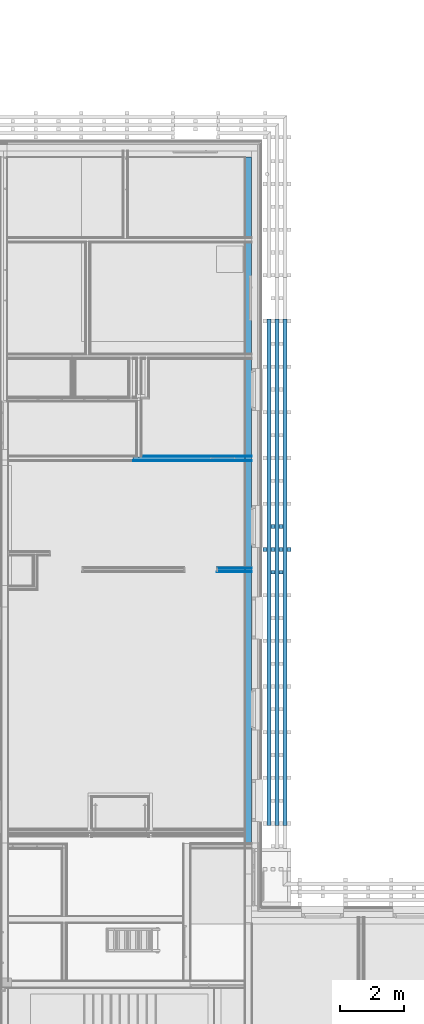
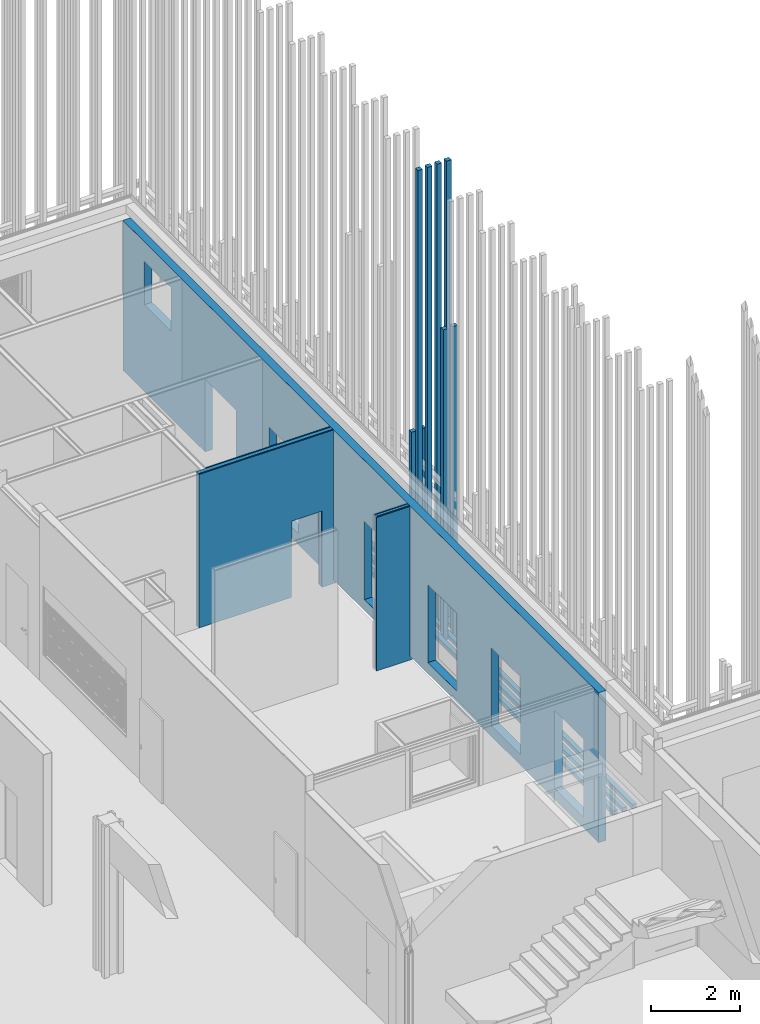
# One storey, part 190 of 260: 14 building element parts, 4 discrete accessories, 9 openings, 3 elements without a shape of their own.
"""IFC2X3 building model written with IfcOpenShell, lengths in millimetres."""

from ifc_helpers import new_model, entity, si_unit, converted_unit, derived_unit, money_unit, direction, frame, origin_with_axes, place, context, subcontext, project, spatial, faceted_brep, material, material_list, type_object, element, aggregate, save


model = new_model("IFC2X3")

# Units and contexts
model_context = context("Model", 3, precision=0.01, world=origin_with_axes(), true_north=direction((0.0, 1.0)))
body_context = subcontext(model_context, "Body", "Model", "MODEL_VIEW")
ifc_project = project(units=[si_unit("LENGTHUNIT", "METRE", prefix="MILLI"), si_unit("AREAUNIT", "SQUARE_METRE"), si_unit("VOLUMEUNIT", "CUBIC_METRE"), converted_unit("PLANEANGLEUNIT", "DEGREE", entity("IfcPlaneAngleMeasure", 0.0174532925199), si_unit("PLANEANGLEUNIT", "RADIAN"), dimensions=[0, 0, 0, 0, 0, 0, 0]), money_unit("EUR"), converted_unit("TIMEUNIT", "Year", entity("IfcTimeMeasure", 31556926.0), si_unit("TIMEUNIT", "SECOND"), dimensions=[0, 0, 1, 0, 0, 0, 0]), si_unit("MASSUNIT", "GRAM", prefix="KILO"), si_unit("THERMODYNAMICTEMPERATUREUNIT", "DEGREE_CELSIUS"), si_unit("LUMINOUSINTENSITYUNIT", "LUMEN"), si_unit("ENERGYUNIT", "JOULE", prefix="MEGA"), derived_unit("THERMALCONDUCTANCEUNIT", [(si_unit("POWERUNIT", "WATT"), 1), (si_unit("LENGTHUNIT", "METRE"), -1), (si_unit("THERMODYNAMICTEMPERATUREUNIT", "KELVIN"), -1)]), derived_unit("SPECIFICHEATCAPACITYUNIT", [(si_unit("ENERGYUNIT", "JOULE"), 1), (si_unit("MASSUNIT", "GRAM", prefix="KILO"), -1), (si_unit("THERMODYNAMICTEMPERATUREUNIT", "KELVIN"), -1)]), derived_unit("MASSDENSITYUNIT", [(si_unit("MASSUNIT", "GRAM", prefix="KILO"), 1), (si_unit("VOLUMEUNIT", "CUBIC_METRE"), -1)])], contexts=[model_context])

# Site, building, storey
site_placement = place(None, origin_with_axes())
site = spatial("IfcSite", under=ifc_project, at=site_placement, Name="Kolde pst 67a", CompositionType="ELEMENT")
building_placement = place(site_placement, origin_with_axes())
building = spatial("IfcBuilding", under=site, at=building_placement, Name="Riigigümnaasium", CompositionType="ELEMENT")
storey_placement = place(building_placement, origin_with_axes())
storey = spatial("IfcBuildingStorey", under=building, at=storey_placement, Name="1. korrus", CompositionType="ELEMENT", Elevation=0.0)

# Discrete accessories
ifc_material_1 = material(Name="_VÄLISVIIMISTLUS - sõrmjätkatud puitprussid 120x115mm, liitekohad vähemärgatavad, Platowood sõrmjätkatud kuusk või samaväärne; eeltöödeldud tuletõkkevõõbaga, tuletundlikkus B-s1, d0, Woodsafe Exterior WFX™ või samaväärne; kinnitused vastavalt EK osale")
ifc_material_list_1 = material_list([ifc_material_1, ifc_material_1, ifc_material_1, ifc_material_1])
discrete_accessory_type_1 = type_object("IfcDiscreteAccessoryType", Name="120 4-ne vertikaalne 870 x 115")
discrete_accessory_1_placement = place(storey_placement, frame((60791.9943499, 47947.4998416, 280.0), z_axis=(0.0, 0.0, 1.0), x_axis=(-0.999999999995, -3.13999128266e-06, 0.0)))
element("IfcDiscreteAccessory", 1, at=discrete_accessory_1_placement, inside=storey, type_object=discrete_accessory_type_1, material=ifc_material_list_1, Name="Päikesevarjestus", context=body_context, shape_type="Brep", body=[
    faceted_brep([(-133.0, -70.0, 0.0), (-13.0, -70.0, 0.0), (-13.0, -70.0, 12600.0), (-133.0, -70.0, 12600.0), (-133.0, 45.0, 0.0), (-13.0, 45.0, 0.0), (-13.0, 45.0, 12600.0), (-133.0, 45.0, 12600.0)], [[[0, 1, 2, 3]], [[0, 4, 5, 1]], [[1, 5, 6, 2]], [[3, 2, 6, 7]], [[4, 0, 3, 7]], [[5, 4, 7, 6]]]),
    faceted_brep([(-383.0, -70.0, 0.0), (-263.0, -70.0, 0.0), (-263.0, -70.0, 12600.0), (-383.0, -70.0, 12600.0), (-383.0, 45.0, 0.0), (-263.0, 45.0, 0.0), (-263.0, 45.0, 12600.0), (-383.0, 45.0, 12600.0)], [[[0, 1, 2, 3]], [[0, 4, 5, 1]], [[1, 5, 6, 2]], [[3, 2, 6, 7]], [[4, 0, 3, 7]], [[5, 4, 7, 6]]]),
    faceted_brep([(-633.0, -70.0, 0.0), (-513.0, -70.0, 0.0), (-513.0, -70.0, 12600.0), (-633.0, -70.0, 12600.0), (-633.0, 45.0, 0.0), (-513.0, 45.0, 0.0), (-513.0, 45.0, 12600.0), (-633.0, 45.0, 12600.0)], [[[0, 1, 2, 3]], [[0, 4, 5, 1]], [[1, 5, 6, 2]], [[3, 2, 6, 7]], [[4, 0, 3, 7]], [[5, 4, 7, 6]]]),
    faceted_brep([(-883.0, -70.0, 0.0), (-763.0, -70.0, 0.0), (-763.0, -70.0, 12600.0), (-883.0, -70.0, 12600.0), (-883.0, 45.0, 0.0), (-763.0, 45.0, 0.0), (-763.0, 45.0, 12600.0), (-883.0, 45.0, 12600.0)], [[[0, 1, 2, 3]], [[0, 4, 5, 1]], [[1, 5, 6, 2]], [[3, 2, 6, 7]], [[4, 0, 3, 7]], [[5, 4, 7, 6]]]),
])
ifc_material_list_2 = material_list([ifc_material_1, ifc_material_1, ifc_material_1])
discrete_accessory_type_2 = type_object("IfcDiscreteAccessoryType", Name="120 1+paiksekaitse 3 tk  620 x 115")
discrete_accessory_2_placement = place(storey_placement, frame((60804.9941222, 39319.9998825, 352.5), z_axis=(0.0, 0.0, 1.0), x_axis=(1.0, 2.37728049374e-08, 0.0)))
element("IfcDiscreteAccessory", 2, at=discrete_accessory_2_placement, inside=storey, type_object=discrete_accessory_type_2, material=ifc_material_list_2, Name="Päikesevarjestus", context=body_context, shape_type="Brep", body=[
    faceted_brep([(625.0, 15850.0, 45.0), (625.0, 0.0, 45.0), (745.0, 0.0, 45.0), (745.0, 15850.0, 45.0), (625.0, 15850.0, -70.0), (625.0, 0.0, -70.0), (745.0, 0.0, -70.0), (745.0, 15850.0, -70.0)], [[[0, 1, 2, 3]], [[4, 5, 1, 0]], [[5, 6, 2, 1]], [[3, 2, 6, 7]], [[4, 0, 3, 7]], [[7, 6, 5, 4]]]),
    faceted_brep([(375.0, 15850.0, 45.0), (375.0, 0.0, 45.0), (495.0, 0.0, 45.0), (495.0, 15850.0, 45.0), (375.0, 15850.0, -70.0), (375.0, 0.0, -70.0), (495.0, 0.0, -70.0), (495.0, 15850.0, -70.0)], [[[0, 1, 2, 3]], [[4, 5, 1, 0]], [[5, 6, 2, 1]], [[3, 2, 6, 7]], [[4, 0, 3, 7]], [[7, 6, 5, 4]]]),
    faceted_brep([(125.0, 15850.0, 45.0), (125.0, 0.0, 45.0), (245.0, 0.0, 45.0), (245.0, 15850.0, 45.0), (125.0, 15850.0, -70.0), (125.0, 0.0, -70.0), (245.0, 0.0, -70.0), (245.0, 15850.0, -70.0)], [[[0, 1, 2, 3]], [[4, 5, 1, 0]], [[5, 6, 2, 1]], [[3, 2, 6, 7]], [[4, 0, 3, 7]], [[7, 6, 5, 4]]]),
])
ifc_material_list_3 = material_list([ifc_material_1, ifc_material_1])
discrete_accessory_type_3 = type_object("IfcDiscreteAccessoryType", Name="1+paiksekaitse 3 370 x 115")
discrete_accessory_3_placement = place(storey_placement, frame((61771.9937454, 47305.0013897, 280.0), z_axis=(0.0, 0.0, 1.0), x_axis=(-1.0, 0.0, 0.0)))
element("IfcDiscreteAccessory", 3, at=discrete_accessory_3_placement, inside=storey, type_object=discrete_accessory_type_3, material=ifc_material_list_3, Name="Päikesevarjestus", context=body_context, shape_type="Brep", body=[
    faceted_brep([(467.0, 117.5, 0.0), (347.0, 117.5, 0.0), (347.0, 117.5, 8560.0), (467.0, 117.5, 8560.0), (467.0, 2.5, 0.0), (347.0, 2.5, 0.0), (347.0, 2.5, 8560.0), (467.0, 2.5, 8560.0)], [[[0, 1, 2, 3]], [[0, 4, 5, 1]], [[1, 5, 6, 2]], [[3, 2, 6, 7]], [[4, 0, 3, 7]], [[5, 4, 7, 6]]]),
    faceted_brep([(717.0, 117.5, 0.0), (597.0, 117.5, 0.0), (597.0, 117.5, 8560.0), (717.0, 117.5, 8560.0), (717.0, 2.5, 0.0), (597.0, 2.5, 0.0), (597.0, 2.5, 8560.0), (717.0, 2.5, 8560.0)], [[[0, 1, 2, 3]], [[0, 4, 5, 1]], [[1, 5, 6, 2]], [[3, 2, 6, 7]], [[4, 0, 3, 7]], [[5, 4, 7, 6]]]),
])
discrete_accessory_4_placement = place(storey_placement, frame((61771.9937454, 48735.0013897, 2100.00014213), z_axis=(0.0, 0.0, 1.0), x_axis=(-1.0, 0.0, 0.0)))
element("IfcDiscreteAccessory", 4, at=discrete_accessory_4_placement, inside=storey, type_object=discrete_accessory_type_3, material=ifc_material_list_3, Name="Päikesevarjestus", context=body_context, shape_type="Brep", body=[
    faceted_brep([(467.0, 117.5, 0.0), (347.0, 117.5, 0.0), (347.0, 117.5, 3050.0), (467.0, 117.5, 3050.0), (467.0, 2.5, 0.0), (347.0, 2.5, 0.0), (347.0, 2.5, 3050.0), (467.0, 2.5, 3050.0)], [[[0, 1, 2, 3]], [[0, 4, 5, 1]], [[1, 5, 6, 2]], [[3, 2, 6, 7]], [[4, 0, 3, 7]], [[5, 4, 7, 6]]]),
    faceted_brep([(717.0, 117.5, 0.0), (597.0, 117.5, 0.0), (597.0, 117.5, 3050.0), (717.0, 117.5, 3050.0), (717.0, 2.5, 0.0), (597.0, 2.5, 0.0), (597.0, 2.5, 3050.0), (717.0, 2.5, 3050.0)], [[[0, 1, 2, 3]], [[0, 4, 5, 1]], [[1, 5, 6, 2]], [[3, 2, 6, 7]], [[4, 0, 3, 7]], [[5, 4, 7, 6]]]),
])

# Wall, opening, building element parts
wall_type_1 = type_object("IfcWallType", Name="SS-PK-10/9_vill100+2värv 170", PredefinedType="NOTDEFINED")
wall_1_placement = place(storey_placement, frame((56829.994111, 50890.0003787, 0.0), z_axis=(0.0, 0.0, 1.0), x_axis=(1.0, 0.0, 0.0)))
wall_1 = element("IfcWall", 5, at=wall_1_placement, inside=storey, type_object=wall_type_1, Name="Sisesein")
opening_1_placement = place(wall_1_placement, frame((2710.0000112, 0.0, 0.0), z_axis=(0.0, 0.0, 1.0), x_axis=(1.0, 0.0, 0.0)))
element("IfcOpeningElement", 6, at=opening_1_placement, cuts=wall_1, Name="Siseuks", context=body_context, shape_type="Brep", body=[
    faceted_brep([(400.0, -340.0, 2100.0), (400.0, -340.0, 0.0), (400.0, -20.0, 0.0), (400.0, -20.0, 2100.0), (-400.0, -340.0, 2100.0), (-400.0, -340.0, 0.0), (-400.0, -20.0, 0.0), (-400.0, -20.0, 2100.0)], [[[0, 1, 2, 3]], [[0, 4, 5, 1]], [[1, 5, 6, 2]], [[3, 2, 6, 7]], [[4, 0, 3, 7]], [[5, 4, 7, 6]]]),
    faceted_brep([(400.0, 170.0, 0.0), (400.0, 170.0, 2100.0), (400.0, -20.0, 2100.0), (400.0, -20.0, 0.0), (-400.0, 170.0, 0.0), (-400.0, 170.0, 2100.0), (-400.0, -20.0, 2100.0), (-400.0, -20.0, 0.0)], [[[0, 1, 2, 3]], [[0, 4, 5, 1]], [[1, 5, 6, 2]], [[3, 2, 6, 7]], [[4, 0, 3, 7]], [[5, 4, 7, 6]]]),
])
ifc_material_2 = material(Name="_VIIMISTLUSKIHT - viimistlus vastavalt SA osale")
building_element_part_1_placement = place(wall_1_placement, origin_with_axes())
building_element_part_1 = element("IfcBuildingElementPart", 7, at=building_element_part_1_placement, material=ifc_material_2, Name="_VIIMISTLUSKIHT - viimistlus vastavalt SA osale", context=body_context, shape_type="Brep", body=[
    faceted_brep([(2310.0000112, 0.0, 2100.0), (2310.0000112, 0.0, 0.0), (170.0, 0.0, 0.0), (170.0, 0.0, 4230.00000998), (3400.0000112, 0.0, 4230.0), (3400.0000112, 0.0, 100.0), (3610.0000112, 0.0, 100.0), (3610.0000112, 0.0, 0.0), (3110.0000112, 0.0, 0.0), (3110.0000112, 0.0, 2100.0), (2310.0000112, -4.99999940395, 2100.0), (2310.0000112, -4.99999961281, 0.0), (170.0, -4.99999995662, 0.0), (170.0, -5.0, 4230.00000998), (3400.0000112, -5.0, 4230.0), (3400.0000112, -4.99999940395, 100.0), (3610.0000112, -4.99999940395, 100.0), (3610.0000112, -4.99999940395, 0.0), (3110.0000112, -4.99999948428, 0.0), (3110.0000112, -4.99999940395, 2100.0)], [[[0, 1, 2, 3, 4, 5, 6, 7, 8, 9]], [[1, 0, 10, 11]], [[1, 11, 12, 2]], [[3, 2, 12, 13]], [[4, 3, 13, 14]], [[4, 14, 15, 5]], [[5, 15, 16, 6]], [[16, 17, 7, 6]], [[18, 8, 7, 17]], [[9, 8, 18, 19]], [[0, 9, 19, 10]], [[19, 18, 17, 16, 15, 14, 13, 12, 11, 10]]]),
])
ifc_material_3 = material(Name="_PLAATMATERJAL - tuletõkkekipsplaat, Knauf Red GKF või samaväärne")
building_element_part_2_placement = place(wall_1_placement, origin_with_axes())
building_element_part_2 = element("IfcBuildingElementPart", 8, at=building_element_part_2_placement, material=ifc_material_3, Name="_PLAATMATERJAL - tuletõkkekipsplaat, Knauf Red GKF või samaväärne", context=body_context, shape_type="Brep", body=[
    faceted_brep([(2310.0000112, -5.0, 2100.0), (2310.0000112, -4.99999961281, 0.0), (165.0, -4.99999995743, 0.0), (165.0, -5.0, 4230.00000998), (3410.0000112, -5.0, 4230.0), (3410.0000112, -4.99999940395, 100.0), (3610.0000112, -4.99999940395, 100.0), (3610.0000112, -4.99999940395, 0.0), (3110.0000112, -4.99999948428, 0.0), (3110.0000112, -5.0, 2100.0), (2310.0000112, -20.0, 2100.0), (2310.0000112, -20.0, 0.0), (165.0, -20.0000000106, 0.0), (165.0, -20.0, 4230.00000998), (3410.0000112, -20.0, 4230.0), (3410.0000112, -20.000000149, 100.0), (3610.0000112, -20.000000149, 100.0), (3610.0000112, -20.000000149, 0.0), (3110.0000112, -20.0, 0.0), (3110.0000112, -20.0, 2100.0)], [[[0, 1, 2, 3, 4, 5, 6, 7, 8, 9]], [[1, 0, 10, 11]], [[1, 11, 12, 2]], [[3, 2, 12, 13]], [[4, 3, 13, 14]], [[4, 14, 15, 5]], [[6, 5, 15, 16]], [[16, 17, 7, 6]], [[18, 8, 7, 17]], [[9, 8, 18, 19]], [[0, 9, 19, 10]], [[19, 18, 17, 16, 15, 14, 13, 12, 11, 10]]]),
])
ifc_material_4 = material(Name="_PLAATMATERJAL - OSB3 plaat")
building_element_part_3_placement = place(wall_1_placement, origin_with_axes())
building_element_part_3 = element("IfcBuildingElementPart", 9, at=building_element_part_3_placement, material=ifc_material_4, Name="_PLAATMATERJAL - OSB3 plaat", context=body_context, shape_type="Brep", body=[
    faceted_brep([(2310.0000112, -20.0, 2100.0), (2310.0000112, -20.0, 0.0), (150.0, -20.00000001, 0.0), (150.0, -20.0, 4230.00000998), (3410.0000112, -20.0, 4230.0), (3410.0000112, -20.000000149, 100.0), (3610.0000112, -20.000000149, 100.0), (3610.0000112, -20.000000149, 0.0), (3110.0000112, -20.0, 0.0), (3110.0000112, -20.0, 2100.0), (2310.0000112, -35.0000008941, 2100.0), (2310.0000112, -35.0000005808, 0.0), (150.0, -35.0000000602, 0.0), (150.0, -35.0, 4230.00000998), (3410.0000112, -35.0, 4230.0), (3410.0000112, -35.0000008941, 100.0), (3610.0000112, -35.0000008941, 100.0), (3610.0000112, -35.0000008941, 0.0), (3110.0000112, -35.0000007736, 0.0), (3110.0000112, -35.0000008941, 2100.0)], [[[0, 1, 2, 3, 4, 5, 6, 7, 8, 9]], [[1, 0, 10, 11]], [[1, 11, 12, 2]], [[3, 2, 12, 13]], [[4, 3, 13, 14]], [[4, 14, 15, 5]], [[6, 5, 15, 16]], [[16, 17, 7, 6]], [[18, 8, 7, 17]], [[9, 8, 18, 19]], [[0, 9, 19, 10]], [[19, 18, 17, 16, 15, 14, 13, 12, 11, 10]]]),
])
ifc_material_5 = material(Name="_KARKASS - puitpruss 100x50mm vertikaalne, samm 600mm, vahel mineraalvill, helineeldetegur αw = 1.0, ISOVER ACOUSTIC 100mm või samaväärne")
building_element_part_4_placement = place(wall_1_placement, origin_with_axes())
building_element_part_4 = element("IfcBuildingElementPart", 10, at=building_element_part_4_placement, material=ifc_material_5, Name="_KARKASS - puitpruss 100x50mm vertikaalne, samm 600mm, vahel mineraalvill, helineeldetegur αw = 1.0, ISOVER ACOUSTIC 100mm või samaväärne", context=body_context, shape_type="Brep", body=[
    faceted_brep([(2310.0000112, -35.0, 2100.0), (2310.0000112, -35.0000005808, 0.0), (-100.0, -35.0, 0.0), (-100.0, -35.0, 4230.0), (3410.0000112, -35.0, 4230.0), (3410.0000112, -35.0000008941, 100.0), (3610.0000112, -35.0000008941, 100.0), (3610.0000112, -35.0000008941, 0.0), (3110.0000112, -35.0000007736, 0.0), (3110.0000112, -35.0, 2100.0), (2310.0000112, -134.999999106, 2100.0), (2310.0000112, -134.999999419, 0.0), (-100.0, -135.0, 0.0), (-100.0, -135.0, 4230.0), (3410.0000112, -135.0, 4230.0), (3410.0000112, -134.999999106, 100.0), (3610.0000112, -134.999999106, 100.0), (3610.0000112, -134.999999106, 0.0), (3110.0000112, -134.999999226, 0.0), (3110.0000112, -134.999999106, 2100.0)], [[[0, 1, 2, 3, 4, 5, 6, 7, 8, 9]], [[1, 0, 10, 11]], [[1, 11, 12, 2]], [[12, 13, 3, 2]], [[4, 3, 13, 14]], [[4, 14, 15, 5]], [[6, 5, 15, 16]], [[16, 17, 7, 6]], [[18, 8, 7, 17]], [[9, 8, 18, 19]], [[0, 9, 19, 10]], [[19, 18, 17, 16, 15, 14, 13, 12, 11, 10]]]),
])
building_element_part_5_placement = place(wall_1_placement, origin_with_axes())
building_element_part_5 = element("IfcBuildingElementPart", 11, at=building_element_part_5_placement, material=ifc_material_4, Name="_PLAATMATERJAL - OSB3 plaat", context=body_context, shape_type="Brep", body=[
    faceted_brep([(2310.0000112, -135.0, 2100.0), (2310.0000112, -134.999999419, 0.0), (-100.0, -135.0, 0.0), (-100.0, -135.0, 4230.0), (3410.0000112, -135.0, 4230.0), (3410.0000112, -134.999999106, 100.0), (3610.0000112, -134.999999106, 100.0), (3610.0000112, -134.999999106, 0.0), (3110.0000112, -134.999999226, 0.0), (3110.0000112, -135.0, 2100.0), (2310.0000112, -149.999999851, 2100.0), (2310.0000112, -149.999999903, 0.0), (-100.0, -150.0, 0.0), (-100.0, -150.0, 4230.0), (3410.0000112, -150.0, 4230.0), (3410.0000112, -149.999999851, 100.0), (3610.0000112, -149.999999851, 100.0), (3610.0000112, -149.999999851, 0.0), (3110.0000112, -149.999999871, 0.0), (3110.0000112, -149.999999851, 2100.0)], [[[0, 1, 2, 3, 4, 5, 6, 7, 8, 9]], [[1, 0, 10, 11]], [[1, 11, 12, 2]], [[12, 13, 3, 2]], [[4, 3, 13, 14]], [[4, 14, 15, 5]], [[6, 5, 15, 16]], [[16, 17, 7, 6]], [[18, 8, 7, 17]], [[9, 8, 18, 19]], [[0, 9, 19, 10]], [[19, 18, 17, 16, 15, 14, 13, 12, 11, 10]]]),
])
building_element_part_6_placement = place(wall_1_placement, origin_with_axes())
building_element_part_6 = element("IfcBuildingElementPart", 12, at=building_element_part_6_placement, material=ifc_material_3, Name="_PLAATMATERJAL - tuletõkkekipsplaat, Knauf Red GKF või samaväärne", context=body_context, shape_type="Brep", body=[
    faceted_brep([(2310.0000112, -150.0, 2100.0), (2310.0000112, -149.999999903, 0.0), (-100.0, -150.0, 0.0), (-100.0, -150.0, 4230.0), (3410.0000112, -150.0, 4230.0), (3410.0000112, -149.999999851, 100.0), (3610.0000112, -149.999999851, 100.0), (3610.0000112, -149.999999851, 0.0), (3110.0000112, -149.999999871, 0.0), (3110.0000112, -150.0, 2100.0), (2310.0000112, -165.000000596, 2100.0), (2310.0000112, -165.000000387, 0.0), (-100.0, -165.0, 0.0), (-100.0, -165.0, 4230.0), (3410.0000112, -165.0, 4230.0), (3410.0000112, -165.000000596, 100.0), (3610.0000112, -165.000000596, 100.0), (3610.0000112, -165.000000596, 0.0), (3110.0000112, -165.000000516, 0.0), (3110.0000112, -165.000000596, 2100.0)], [[[0, 1, 2, 3, 4, 5, 6, 7, 8, 9]], [[1, 0, 10, 11]], [[1, 11, 12, 2]], [[12, 13, 3, 2]], [[4, 3, 13, 14]], [[4, 14, 15, 5]], [[6, 5, 15, 16]], [[16, 17, 7, 6]], [[18, 8, 7, 17]], [[9, 8, 18, 19]], [[0, 9, 19, 10]], [[19, 18, 17, 16, 15, 14, 13, 12, 11, 10]]]),
])
building_element_part_7_placement = place(wall_1_placement, origin_with_axes())
building_element_part_7 = element("IfcBuildingElementPart", 13, at=building_element_part_7_placement, material=ifc_material_2, Name="_VIIMISTLUSKIHT - viimistlus vastavalt SA osale", context=body_context, shape_type="Brep", body=[
    faceted_brep([(2310.0000112, -165.0, 2100.0), (2310.0000112, -165.000000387, 0.0), (-100.0, -165.0, 0.0), (-100.0, -165.0, 4230.0), (3400.0000112, -165.0, 4230.0), (3400.0000112, -165.000000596, 100.0), (3610.0000112, -165.000000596, 100.0), (3610.0000112, -165.000000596, 0.0), (3110.0000112, -165.000000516, 0.0), (3110.0000112, -165.0, 2100.0), (2310.0000112, -170.0, 2100.0), (2310.0000112, -170.0, 0.0), (-100.0, -170.0, 0.0), (-100.0, -170.0, 4230.0), (3400.0000112, -170.0, 4230.0), (3400.0000112, -170.0, 100.0), (3610.0000112, -170.0, 100.0), (3610.0000112, -170.0, 0.0), (3110.0000112, -170.0, 0.0), (3110.0000112, -170.0, 2100.0)], [[[0, 1, 2, 3, 4, 5, 6, 7, 8, 9]], [[1, 0, 10, 11]], [[1, 11, 12, 2]], [[12, 13, 3, 2]], [[4, 3, 13, 14]], [[4, 14, 15, 5]], [[5, 15, 16, 6]], [[16, 17, 7, 6]], [[18, 8, 7, 17]], [[9, 8, 18, 19]], [[0, 9, 19, 10]], [[19, 18, 17, 16, 15, 14, 13, 12, 11, 10]]]),
])
aggregate(wall_1, [building_element_part_1, building_element_part_2, building_element_part_3, building_element_part_4, building_element_part_5, building_element_part_6, building_element_part_7])

# Wall, openings, building element part
wall_type_2 = type_object("IfcWallType", Name="VS-RB-20/1_soojust 200+laudis 522", PredefinedType="NOTDEFINED")
wall_2_placement = place(storey_placement, frame((60439.9941222, 38773.8677641, 100.0), z_axis=(0.0, 0.0, 1.0), x_axis=(0.0, 1.0, 0.0)))
wall_2 = element("IfcWall", 14, at=wall_2_placement, inside=storey, type_object=wall_type_2, Name="Välissein")
opening_2_placement = place(wall_2_placement, frame((19886.2075572, 0.0, 2400.0), z_axis=(0.0, 0.0, 1.0), x_axis=(1.0, 0.0, 0.0)))
element("IfcOpeningElement", 15, at=opening_2_placement, cuts=wall_2, Name="Rest", context=body_context, shape_type="Brep", body=[
    faceted_brep([(600.0, -1044.0, 1200.0), (600.0, -1044.0, 0.0), (600.0, 522.0, 0.0), (600.0, 522.0, 1200.0), (-600.0, -1044.0, 1200.0), (-600.0, -1044.0, 0.0), (-600.0, 522.0, 0.0), (-600.0, 522.0, 1200.0)], [[[0, 1, 2, 3]], [[0, 4, 5, 1]], [[1, 5, 6, 2]], [[3, 2, 6, 7]], [[4, 0, 3, 7]], [[5, 4, 7, 6]]]),
])
opening_3_placement = place(wall_2_placement, frame((9901.13485019, 0.0, 300.0), z_axis=(0.0, 0.0, 1.0), x_axis=(1.0, 0.0, 0.0)))
element("IfcOpeningElement", 16, at=opening_3_placement, cuts=wall_2, Name="Välisaken", context=body_context, shape_type="Brep", body=[
    faceted_brep([(655.0, 732.0, 0.0), (655.0, 732.0, 2150.0), (655.0, -122.0, 2150.0), (655.0, -122.0, 0.0), (-655.0, 732.0, 0.0), (-655.0, 732.0, 2150.0), (-655.0, -122.0, 2150.0), (-655.0, -122.0, 0.0)], [[[0, 1, 2, 3]], [[0, 4, 5, 1]], [[1, 5, 6, 2]], [[3, 2, 6, 7]], [[4, 0, 3, 7]], [[5, 4, 7, 6]]]),
    faceted_brep([(655.0, -834.0, 2150.0), (655.0, -834.0, 0.0), (655.0, -122.0, 0.0), (655.0, -122.0, 2150.0), (-655.0, -834.0, 2150.0), (-655.0, -834.0, 0.0), (-655.0, -122.0, 0.0), (-655.0, -122.0, 2150.0)], [[[0, 1, 2, 3]], [[0, 4, 5, 1]], [[1, 5, 6, 2]], [[3, 2, 6, 7]], [[4, 0, 3, 7]], [[5, 4, 7, 6]]]),
])
opening_4_placement = place(wall_2_placement, frame((7041.13211839, 0.0, 300.0), z_axis=(0.0, 0.0, 1.0), x_axis=(1.0, 0.0, 0.0)))
element("IfcOpeningElement", 17, at=opening_4_placement, cuts=wall_2, Name="Välisaken", context=body_context, shape_type="Brep", body=[
    faceted_brep([(655.0, 732.0, 0.0), (655.0, 732.0, 2150.0), (655.0, -122.0, 2150.0), (655.0, -122.0, 0.0), (-655.0, 732.0, 0.0), (-655.0, 732.0, 2150.0), (-655.0, -122.0, 2150.0), (-655.0, -122.0, 0.0)], [[[0, 1, 2, 3]], [[0, 4, 5, 1]], [[1, 5, 6, 2]], [[3, 2, 6, 7]], [[4, 0, 3, 7]], [[5, 4, 7, 6]]]),
    faceted_brep([(655.0, -834.0, 2150.0), (655.0, -834.0, 0.0), (655.0, -122.0, 0.0), (655.0, -122.0, 2150.0), (-655.0, -834.0, 2150.0), (-655.0, -834.0, 0.0), (-655.0, -122.0, 0.0), (-655.0, -122.0, 2150.0)], [[[0, 1, 2, 3]], [[0, 4, 5, 1]], [[1, 5, 6, 2]], [[3, 2, 6, 7]], [[4, 0, 3, 7]], [[5, 4, 7, 6]]]),
])
opening_5_placement = place(wall_2_placement, frame((4181.13211839, 0.0, 300.0), z_axis=(0.0, 0.0, 1.0), x_axis=(1.0, 0.0, 0.0)))
element("IfcOpeningElement", 18, at=opening_5_placement, cuts=wall_2, Name="Välisaken", context=body_context, shape_type="Brep", body=[
    faceted_brep([(655.0, 732.0, 0.0), (655.0, 732.0, 2150.0), (655.0, -122.0, 2150.0), (655.0, -122.0, 0.0), (-655.0, 732.0, 0.0), (-655.0, 732.0, 2150.0), (-655.0, -122.0, 2150.0), (-655.0, -122.0, 0.0)], [[[0, 1, 2, 3]], [[0, 4, 5, 1]], [[1, 5, 6, 2]], [[3, 2, 6, 7]], [[4, 0, 3, 7]], [[5, 4, 7, 6]]]),
    faceted_brep([(655.0, -834.0, 2150.0), (655.0, -834.0, 0.0), (655.0, -122.0, 0.0), (655.0, -122.0, 2150.0), (-655.0, -834.0, 2150.0), (-655.0, -834.0, 0.0), (-655.0, -122.0, 0.0), (-655.0, -122.0, 2150.0)], [[[0, 1, 2, 3]], [[0, 4, 5, 1]], [[1, 5, 6, 2]], [[3, 2, 6, 7]], [[4, 0, 3, 7]], [[5, 4, 7, 6]]]),
])
opening_6_placement = place(wall_2_placement, frame((14191.1348502, 0.0, 300.0), z_axis=(0.0, 0.0, 1.0), x_axis=(1.0, 0.0, 0.0)))
element("IfcOpeningElement", 19, at=opening_6_placement, cuts=wall_2, Name="Välisaken", context=body_context, shape_type="Brep", body=[
    faceted_brep([(655.0, 732.0, 0.0), (655.0, 732.0, 2150.0), (655.0, -122.0, 2150.0), (655.0, -122.0, 0.0), (-655.0, 732.0, 0.0), (-655.0, 732.0, 2150.0), (-655.0, -122.0, 2150.0), (-655.0, -122.0, 0.0)], [[[0, 1, 2, 3]], [[0, 4, 5, 1]], [[1, 5, 6, 2]], [[3, 2, 6, 7]], [[4, 0, 3, 7]], [[5, 4, 7, 6]]]),
    faceted_brep([(655.0, -834.0, 2150.0), (655.0, -834.0, 0.0), (655.0, -122.0, 0.0), (655.0, -122.0, 2150.0), (-655.0, -834.0, 2150.0), (-655.0, -834.0, 0.0), (-655.0, -122.0, 0.0), (-655.0, -122.0, 2150.0)], [[[0, 1, 2, 3]], [[0, 4, 5, 1]], [[1, 5, 6, 2]], [[3, 2, 6, 7]], [[4, 0, 3, 7]], [[5, 4, 7, 6]]]),
])
opening_7_placement = place(wall_2_placement, frame((1321.13211839, 0.0, 300.0), z_axis=(0.0, 0.0, 1.0), x_axis=(1.0, 0.0, 0.0)))
element("IfcOpeningElement", 20, at=opening_7_placement, cuts=wall_2, Name="Välisaken", context=body_context, shape_type="Brep", body=[
    faceted_brep([(655.0, 732.0, 0.0), (655.0, 732.0, 2150.0), (655.0, -122.0, 2150.0), (655.0, -122.0, 0.0), (-655.0, 732.0, 0.0), (-655.0, 732.0, 2150.0), (-655.0, -122.0, 2150.0), (-655.0, -122.0, 0.0)], [[[0, 1, 2, 3]], [[0, 4, 5, 1]], [[1, 5, 6, 2]], [[3, 2, 6, 7]], [[4, 0, 3, 7]], [[5, 4, 7, 6]]]),
    faceted_brep([(655.0, -834.0, 2150.0), (655.0, -834.0, 0.0), (655.0, -122.0, 0.0), (655.0, -122.0, 2150.0), (-655.0, -834.0, 2150.0), (-655.0, -834.0, 0.0), (-655.0, -122.0, 0.0), (-655.0, -122.0, 2150.0)], [[[0, 1, 2, 3]], [[0, 4, 5, 1]], [[1, 5, 6, 2]], [[3, 2, 6, 7]], [[4, 0, 3, 7]], [[5, 4, 7, 6]]]),
])
opening_8_placement = place(wall_2_placement, frame((17053.6320778, 0.0, -100.0), z_axis=(0.0, 0.0, 1.0), x_axis=(1.0, 0.0, 0.0)))
element("IfcOpeningElement", 21, at=opening_8_placement, cuts=wall_2, Name="Kahepoolne välisuks", context=body_context, shape_type="Brep", body=[
    faceted_brep([(700.0, 0.0, 0.0), (700.0, 0.0, 2100.0), (700.0, -834.0, 2100.0), (700.0, -834.0, 0.0), (-700.0, 0.0, 0.0), (-700.0, 0.0, 2100.0), (-700.0, -834.0, 2100.0), (-700.0, -834.0, 0.0)], [[[0, 1, 2, 3]], [[0, 4, 5, 1]], [[1, 5, 6, 2]], [[3, 2, 6, 7]], [[4, 0, 3, 7]], [[5, 4, 7, 6]]]),
    faceted_brep([(700.0, 0.0, 2100.0), (700.0, 0.0, 0.0), (700.0, 732.0, 0.0), (700.0, 732.0, 2100.0), (-700.0, 0.0, 2100.0), (-700.0, 0.0, 0.0), (-700.0, 732.0, 0.0), (-700.0, 732.0, 2100.0)], [[[0, 1, 2, 3]], [[0, 4, 5, 1]], [[1, 5, 6, 2]], [[3, 2, 6, 7]], [[4, 0, 3, 7]], [[5, 4, 7, 6]]]),
])
ifc_material_6 = material(Name="_KANDETARIND - monteeritav raudbetoon vastavalt EK osale")
building_element_part_8_placement = place(wall_2_placement, origin_with_axes())
building_element_part_8 = element("IfcBuildingElementPart", 22, at=building_element_part_8_placement, material=ifc_material_6, Name="_KANDETARIND - monteeritav raudbetoon vastavalt EK osale", context=body_context, shape_type="Brep", body=[
    faceted_brep([(16353.6320778, 0.0, 0.0), (16353.6320778, 0.0, 2000.0), (17753.6320778, 0.0, 2000.0), (17753.6320778, 0.0, 0.0), (21466.1324203, 0.0, 0.0), (21466.1324203, 0.0, 4130.0), (197.999952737, 0.0, 4130.0), (0.0, 0.0, 4130.0), (0.0, 0.0, 0.0), (20486.2075572, 0.0, 3600.0), (20486.2075572, 0.0, 2400.0), (19286.2075572, 0.0, 2400.0), (19286.2075572, 0.0, 3600.0), (9246.13485019, 0.0, 2450.0), (10556.1348502, 0.0, 2450.0), (10556.1348502, 0.0, 300.0), (9246.13485019, 0.0, 300.0), (6386.13211839, 0.0, 300.0), (6386.13211839, 0.0, 2450.0), (7696.13211839, 0.0, 2450.0), (7696.13211839, 0.0, 300.0), (4836.13211839, 0.0, 300.0), (3526.13211839, 0.0, 300.0), (3526.13211839, 0.0, 2450.0), (4836.13211839, 0.0, 2450.0), (14846.1348502, 0.0, 2450.0), (14846.1348502, 0.0, 300.0), (13536.1348502, 0.0, 300.0), (13536.1348502, 0.0, 2450.0), (666.132118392, 0.0, 2450.0), (1976.13211839, 0.0, 2450.0), (1976.13211839, 0.0, 300.0), (666.132118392, 0.0, 300.0), (16353.6320778, 200.0, 0.0), (16353.6320778, 200.0, 2000.0), (17753.6320778, 200.0, 2000.0), (17753.6320778, 200.0, 0.0), (21466.1324203, 200.0, 0.0), (21466.1324203, 200.0, 4130.0), (197.999952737, 200.0, 4130.0), (0.0, 200.0, 4130.0), (0.0, 200.0, 0.0), (20486.2075572, 200.0, 3600.0), (20486.2075572, 200.0, 2400.0), (19286.2075572, 200.0, 2400.0), (19286.2075572, 200.0, 3600.0), (9246.13485019, 200.0, 2450.0), (10556.1348502, 200.0, 2450.0), (10556.1348502, 200.0, 300.0), (9246.13485019, 200.0, 300.0), (6386.13211839, 200.0, 300.0), (6386.13211839, 200.0, 2450.0), (7696.13211839, 200.0, 2450.0), (7696.13211839, 200.0, 300.0), (3526.13211839, 200.0, 300.0), (4836.13211839, 200.0, 300.0), (3526.13211839, 200.0, 2450.0), (4836.13211839, 200.0, 2450.0), (14846.1348502, 200.0, 2450.0), (14846.1348502, 200.0, 300.0), (13536.1348502, 200.0, 300.0), (13536.1348502, 200.0, 2450.0), (666.132118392, 200.0, 2450.0), (1976.13211839, 200.0, 2450.0), (1976.13211839, 200.0, 300.0), (666.132118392, 200.0, 300.0)], [[[0, 1, 2, 3, 4, 5, 6, 7, 8], [9, 10, 11, 12], [13, 14, 15, 16], [17, 18, 19, 20], [21, 22, 23, 24], [25, 26, 27, 28], [29, 30, 31, 32]], [[1, 0, 33, 34]], [[2, 1, 34, 35]], [[3, 2, 35, 36]], [[3, 36, 37, 4]], [[37, 38, 5, 4]], [[6, 5, 38, 39]], [[7, 6, 39, 40]], [[8, 7, 40, 41]], [[33, 0, 8, 41]], [[42, 43, 10, 9]], [[43, 44, 11, 10]], [[44, 45, 12, 11]], [[45, 42, 9, 12]], [[13, 46, 47, 14]], [[14, 47, 48, 15]], [[15, 48, 49, 16]], [[16, 49, 46, 13]], [[18, 17, 50, 51]], [[19, 18, 51, 52]], [[20, 19, 52, 53]], [[17, 20, 53, 50]], [[54, 22, 21, 55]], [[56, 23, 22, 54]], [[57, 24, 23, 56]], [[55, 21, 24, 57]], [[58, 59, 26, 25]], [[59, 60, 27, 26]], [[60, 61, 28, 27]], [[61, 58, 25, 28]], [[29, 62, 63, 30]], [[30, 63, 64, 31]], [[31, 64, 65, 32]], [[32, 65, 62, 29]], [[34, 33, 41, 40, 39, 38, 37, 36, 35], [42, 45, 44, 43], [48, 47, 46, 49], [50, 53, 52, 51], [56, 54, 55, 57], [58, 61, 60, 59], [64, 63, 62, 65]]]),
])
aggregate(wall_2, [building_element_part_8])

# Wall, opening, building element parts
wall_type_3 = type_object("IfcWallType", Name="SS-MK-7,5/1_plaaditud 155", PredefinedType="NOTDEFINED")
wall_3_placement = place(storey_placement, frame((59350.2468604, 47406.5508854, 0.0), z_axis=(0.0, 0.0, 1.0), x_axis=(1.0, 0.0, 0.0)))
wall_3 = element("IfcWall", 23, at=wall_3_placement, inside=storey, type_object=wall_type_3, Name="Sisesein")
opening_9_placement = place(wall_3_placement, origin_with_axes())
element("IfcOpeningElement", 24, at=opening_9_placement, cuts=wall_3, Name="Pale", context=body_context, shape_type="Brep", body=[
    faceted_brep([(15.0, 0.0, 0.0), (0.0, 0.0, 0.0), (0.0, 0.0, 4230.00000998), (15.0, 0.0, 4230.00000998), (15.0, -140.0, 0.0), (0.0, -140.0, 0.0), (0.0, -140.0, 4230.00000998), (15.0, -140.0, 4230.00000998)], [[[0, 1, 2, 3]], [[0, 4, 5, 1]], [[1, 5, 6, 2]], [[3, 2, 6, 7]], [[4, 0, 3, 7]], [[5, 4, 7, 6]]]),
    faceted_brep([(27.5, -15.0, 0.0), (15.0, -15.0, 0.0), (15.0, -15.0, 4230.00000998), (27.5, -15.0, 4230.00000998), (27.5, -140.0, 0.0), (15.0, -140.0, 0.0), (15.0, -140.0, 4230.00000998), (27.5, -140.0, 4230.00000998)], [[[0, 1, 2, 3]], [[0, 4, 5, 1]], [[1, 5, 6, 2]], [[3, 2, 6, 7]], [[4, 0, 3, 7]], [[5, 4, 7, 6]]]),
])
ifc_material_7 = material(Name="_PLAATMATERJAL - kipsplaat veekindel")
building_element_part_9_placement = place(wall_3_placement, origin_with_axes())
building_element_part_9 = element("IfcBuildingElementPart", 25, at=building_element_part_9_placement, material=ifc_material_7, Name="_PLAATMATERJAL - kipsplaat veekindel", context=body_context, shape_type="Brep", body=[
    faceted_brep([(27.5, -15.0, 0.0), (27.5, -15.0, 4230.00000998), (889.747261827, -15.0, 4230.00000998), (889.747261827, -15.0, 100.0), (1089.74726183, -15.0, 100.0), (1089.74726183, -15.0, 0.0), (27.5, -27.5, 4230.00000998), (27.5, -27.5, 0.0), (889.747261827, -27.5, 4230.00000998), (889.747261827, -27.5, 100.0), (1089.74726183, -27.5, 100.0), (1089.74726183, -27.5, 0.0)], [[[0, 1, 2, 3, 4, 5]], [[6, 1, 0, 7]], [[1, 6, 8, 2]], [[8, 9, 3, 2]], [[3, 9, 10, 4]], [[11, 5, 4, 10]], [[7, 0, 5, 11]], [[6, 7, 11, 10, 9, 8]]]),
])
building_element_part_10_placement = place(wall_3_placement, origin_with_axes())
building_element_part_10 = element("IfcBuildingElementPart", 26, at=building_element_part_10_placement, material=ifc_material_7, Name="_PLAATMATERJAL - kipsplaat veekindel", context=body_context, shape_type="Brep", body=[
    faceted_brep([(27.5, -27.5, 0.0), (27.5, -27.5, 4230.00000998), (889.747261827, -27.5, 4230.00000998), (889.747261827, -27.5, 100.0), (1089.74726183, -27.5, 100.0), (1089.74726183, -27.5, 0.0), (27.5, -40.0, 4230.00000998), (27.5, -40.0, 0.0), (889.747261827, -40.0, 4230.00000998), (889.747261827, -40.0, 100.0), (1089.74726183, -40.0, 100.0), (1089.74726183, -40.0, 0.0)], [[[0, 1, 2, 3, 4, 5]], [[6, 1, 0, 7]], [[1, 6, 8, 2]], [[8, 9, 3, 2]], [[3, 9, 10, 4]], [[11, 5, 4, 10]], [[7, 0, 5, 11]], [[6, 7, 11, 10, 9, 8]]]),
])
ifc_material_8 = material(Name="_KARKASS - metallkarkass CW 75/50, mineraalvill karkassi vahel")
building_element_part_11_placement = place(wall_3_placement, origin_with_axes())
building_element_part_11 = element("IfcBuildingElementPart", 27, at=building_element_part_11_placement, material=ifc_material_8, Name="_KARKASS - metallkarkass CW 75/50, mineraalvill karkassi vahel", context=body_context, shape_type="Brep", body=[
    faceted_brep([(27.5, -40.0, 0.0), (27.5, -40.0, 4230.00000998), (889.747261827, -40.0, 4230.00000998), (889.747261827, -40.0, 100.0), (1089.74726183, -40.0, 100.0), (1089.74726183, -40.0, 0.0), (27.5, -115.0, 4230.00000998), (27.5, -115.0, 0.0), (889.747261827, -115.0, 4230.00000998), (889.747261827, -115.0, 100.0), (1089.74726183, -115.0, 100.0), (1089.74726183, -115.0, 0.0)], [[[0, 1, 2, 3, 4, 5]], [[6, 1, 0, 7]], [[1, 6, 8, 2]], [[8, 9, 3, 2]], [[3, 9, 10, 4]], [[11, 5, 4, 10]], [[7, 0, 5, 11]], [[6, 7, 11, 10, 9, 8]]]),
])
building_element_part_12_placement = place(wall_3_placement, origin_with_axes())
building_element_part_12 = element("IfcBuildingElementPart", 28, at=building_element_part_12_placement, material=ifc_material_7, Name="_PLAATMATERJAL - kipsplaat veekindel", context=body_context, shape_type="Brep", body=[
    faceted_brep([(27.5, -115.0, 0.0), (27.5, -115.0, 4230.00000998), (889.747261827, -115.0, 4230.00000998), (889.747261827, -115.0, 100.0), (1089.74726183, -115.0, 100.0), (1089.74726183, -115.0, 0.0), (27.5, -127.5, 4230.00000998), (27.5, -127.5, 0.0), (889.747261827, -127.5, 4230.00000998), (889.747261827, -127.5, 100.0), (1089.74726183, -127.5, 100.0), (1089.74726183, -127.5, 0.0)], [[[0, 1, 2, 3, 4, 5]], [[6, 1, 0, 7]], [[1, 6, 8, 2]], [[8, 9, 3, 2]], [[3, 9, 10, 4]], [[11, 5, 4, 10]], [[7, 0, 5, 11]], [[6, 7, 11, 10, 9, 8]]]),
])
building_element_part_13_placement = place(wall_3_placement, origin_with_axes())
building_element_part_13 = element("IfcBuildingElementPart", 29, at=building_element_part_13_placement, material=ifc_material_7, Name="_PLAATMATERJAL - kipsplaat veekindel", context=body_context, shape_type="Brep", body=[
    faceted_brep([(27.5, -127.5, 0.0), (27.5, -127.5, 4230.00000998), (889.747261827, -127.5, 4230.00000998), (889.747261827, -127.5, 100.0), (1089.74726183, -127.5, 100.0), (1089.74726183, -127.5, 0.0), (27.5, -140.0, 4230.00000998), (27.5, -140.0, 0.0), (889.747261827, -140.0, 4230.00000998), (889.747261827, -140.0, 100.0), (1089.74726183, -140.0, 100.0), (1089.74726183, -140.0, 0.0)], [[[0, 1, 2, 3, 4, 5]], [[6, 1, 0, 7]], [[1, 6, 8, 2]], [[8, 9, 3, 2]], [[3, 9, 10, 4]], [[11, 5, 4, 10]], [[7, 0, 5, 11]], [[6, 7, 11, 10, 9, 8]]]),
])
building_element_part_14_placement = place(wall_3_placement, origin_with_axes())
building_element_part_14 = element("IfcBuildingElementPart", 30, at=building_element_part_14_placement, material=ifc_material_2, Name="_VIIMISTLUSKIHT - viimistlus vastavalt SA osale", context=body_context, shape_type="Brep", body=[
    faceted_brep([(879.747261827, -140.0, 4230.00000998), (879.747261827, -140.0, 100.0), (1089.74726183, -140.0, 100.0), (1089.74726183, -140.0, 0.0), (0.0, -140.0, 0.0), (0.0, -140.0, 4230.00000998), (879.747261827, -155.0, 4230.00000998), (879.747261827, -155.0, 100.0), (1089.74726183, -155.0, 100.0), (1089.74726183, -155.0, 0.0), (0.0, -155.0, 0.0), (0.0, -155.0, 4230.00000998)], [[[0, 1, 2, 3, 4, 5]], [[1, 0, 6, 7]], [[2, 1, 7, 8]], [[2, 8, 9, 3]], [[4, 3, 9, 10]], [[4, 10, 11, 5]], [[6, 0, 5, 11]], [[7, 6, 11, 10, 9, 8]]]),
])
aggregate(wall_3, [building_element_part_9, building_element_part_10, building_element_part_11, building_element_part_12, building_element_part_13, building_element_part_14])

save(model, "model.ifc")
